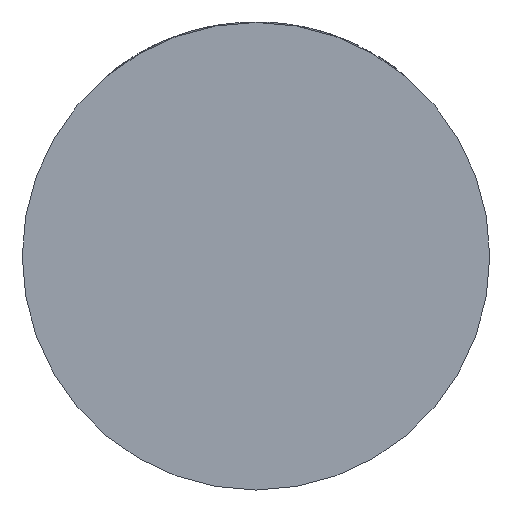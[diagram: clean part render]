
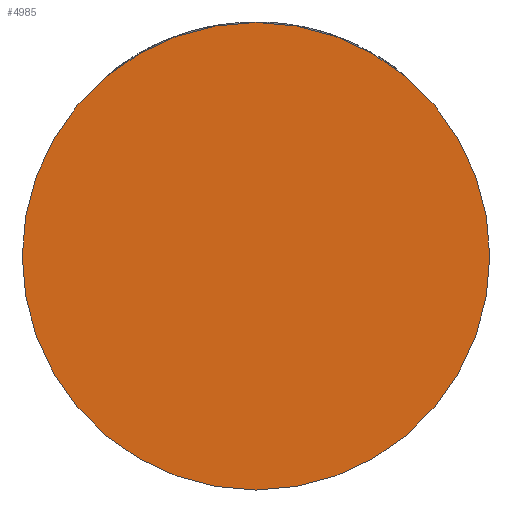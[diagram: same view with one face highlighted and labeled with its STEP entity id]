
A CAD part, front view. The second image highlights one B-rep face of the part: STEP entity #4985.
In plain terms, the highlighted planar face has unit normal (0, -1, 0).
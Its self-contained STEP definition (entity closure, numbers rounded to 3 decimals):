
#200=PLANE('',#5304);
#585=FACE_OUTER_BOUND('',#891,.T.);
#891=EDGE_LOOP('',(#4607));
#1710=CIRCLE('',#5296,53.);
#2436=VERTEX_POINT('',#10534);
#3164=EDGE_CURVE('',#2436,#2436,#1710,.T.);
#4607=ORIENTED_EDGE('',*,*,#3164,.T.);
#4985=ADVANCED_FACE('',(#585),#200,.F.);
#5296=AXIS2_PLACEMENT_3D('',#10535,#6251,#6252);
#5304=AXIS2_PLACEMENT_3D('',#10545,#6267,#6268);
#6251=DIRECTION('center_axis',(0.,-1.,0.));
#6252=DIRECTION('ref_axis',(1.,0.,0.));
#6267=DIRECTION('center_axis',(0.,1.,0.));
#6268=DIRECTION('ref_axis',(0.,0.,1.));
#10534=CARTESIAN_POINT('',(-53.,0.,0.));
#10535=CARTESIAN_POINT('Origin',(0.,0.,0.));
#10545=CARTESIAN_POINT('Origin',(0.,0.,0.));
